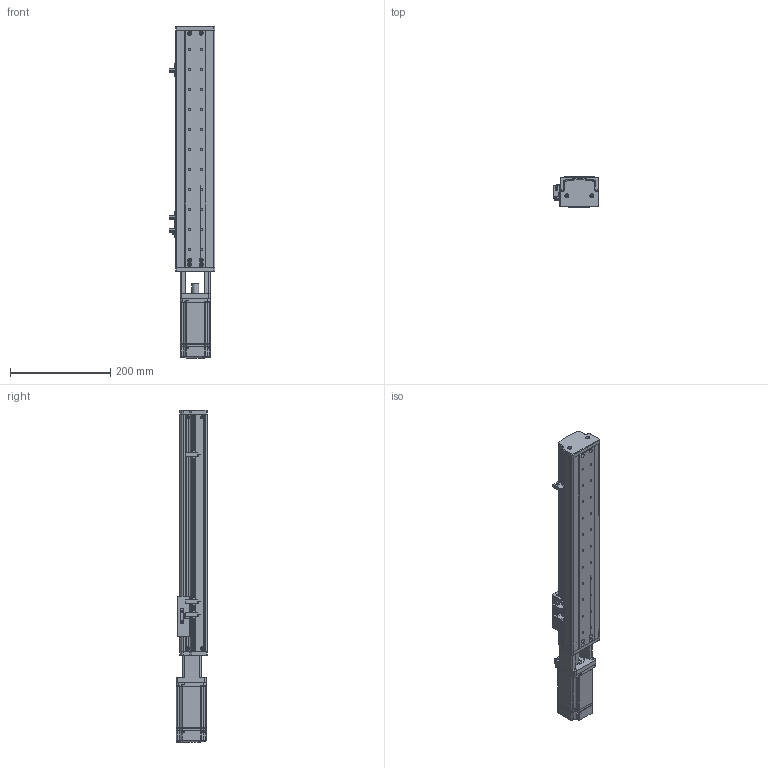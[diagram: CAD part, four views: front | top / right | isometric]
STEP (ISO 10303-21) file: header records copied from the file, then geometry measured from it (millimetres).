
FILE_DESCRIPTION (( 'STEP AP214' ), '1' );
FILE_NAME ('KSD75S-S320-MT-CM.STEP', '2019-10-18T07:31:20', ( '微软用户' ), ( '微软中国' ), 'SwSTEP 2.0', 'SolidWorks 2014', '' );
FILE_SCHEMA (( 'AUTOMOTIVE_DESIGN' ));
Length unit declared in the file: millimetre
Products named in the file (12): MHMD042G1CA_2_03; 覜茼え100遵圉猾敕; U倰嫖萇EEㄜSX672; 綴傷啣 ; 100遵鎮湛假蚾啣1 ; ヶ傷啣; 75裔啣-320俴最; 75遵耀郪耜啣-320俴最; 75遵賑雄釱; MGW15H賑寢320俴最 ; 320俴最; KSD75S-S320-MT-CM
Assembly tree (14 placements, depth 3):
  KSD75S-S320-MT-CM
    MGW15H賑寢320俴最 
      320俴最
    75遵賑雄釱
    75遵耀郪耜啣-320俴最  x2
    75裔啣-320俴最
    ヶ傷啣
    100遵鎮湛假蚾啣1 
    綴傷啣 
    U倰嫖萇EEㄜSX672  x3
    覜茼え100遵圉猾敕
    MHMD042G1CA_2_03
Bounding box: 91.7 x 63 x 663.5 mm (x, y, z)
Volume: 692929.5 mm3; surface area: 432394.3 mm2
Topology: 12 solids, 13 shells, 1386 faces, 3933 edges, 2563 vertices
Faces by surface type: cylinder 644, plane 595, cone 129, bspline 18
Entity records: 44588 total; most frequent: CARTESIAN_POINT 8497, DIRECTION 6553, ORIENTED_EDGE 6146, EDGE_CURVE 3144, AXIS2_PLACEMENT_3D 2398, VERTEX_POINT 2081, LINE 1757, VECTOR 1757
